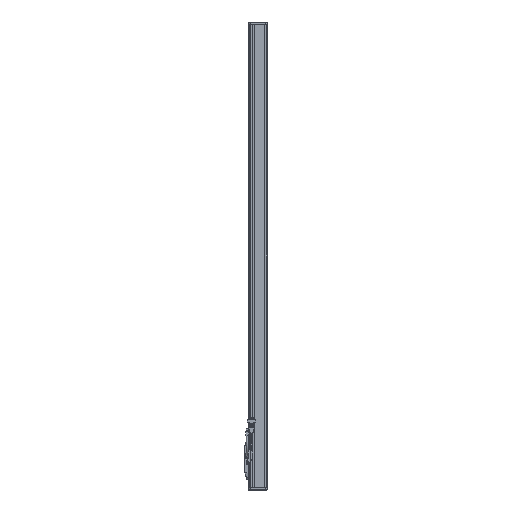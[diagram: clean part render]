
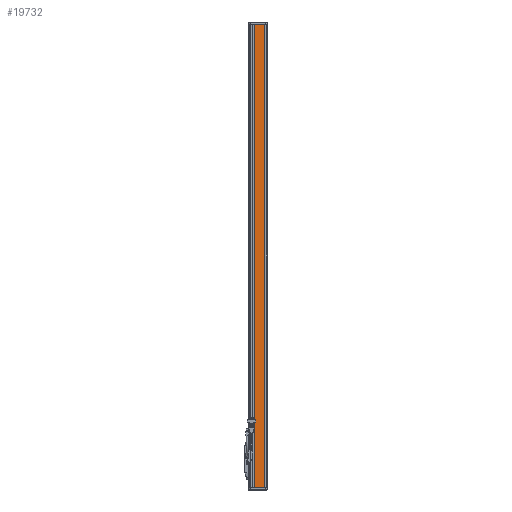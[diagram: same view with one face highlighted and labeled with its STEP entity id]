
A CAD part, left-side view. The second image highlights one B-rep face of the part: STEP entity #19732.
In plain terms, the highlighted planar face has unit normal (-1, 0, 0).
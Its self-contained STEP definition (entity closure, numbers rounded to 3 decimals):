
#144 = PLANE('',#145);
#145 = AXIS2_PLACEMENT_3D('',#146,#147,#148);
#146 = CARTESIAN_POINT('',(-36.5,59.6,1590.));
#147 = DIRECTION('',(0.,0.,1.));
#148 = DIRECTION('',(1.,0.,-0.));
#809 = PLANE('',#810);
#810 = AXIS2_PLACEMENT_3D('',#811,#812,#813);
#811 = CARTESIAN_POINT('',(-36.5,59.6,0.));
#812 = DIRECTION('',(0.,0.,1.));
#813 = DIRECTION('',(1.,0.,-0.));
#12727 = VERTEX_POINT('',#12728);
#12728 = CARTESIAN_POINT('',(-40.5,43.6,1590.));
#12742 = PLANE('',#12743);
#12743 = AXIS2_PLACEMENT_3D('',#12744,#12745,#12746);
#12744 = CARTESIAN_POINT('',(-40.,43.6,1590.));
#12745 = DIRECTION('',(0.,1.,0.));
#12746 = DIRECTION('',(0.,-0.,1.));
#12754 = EDGE_CURVE('',#12727,#12755,#12757,.T.);
#12755 = VERTEX_POINT('',#12756);
#12756 = CARTESIAN_POINT('',(-40.5,11.,1590.));
#12757 = SURFACE_CURVE('',#12758,(#12762,#12769),.PCURVE_S1.);
#12758 = LINE('',#12759,#12760);
#12759 = CARTESIAN_POINT('',(-40.5,19.,1590.));
#12760 = VECTOR('',#12761,1.);
#12761 = DIRECTION('',(0.,-1.,0.));
#12762 = PCURVE('',#144,#12763);
#12763 = DEFINITIONAL_REPRESENTATION('',(#12764),#12768);
#12764 = LINE('',#12765,#12766);
#12765 = CARTESIAN_POINT('',(-4.,-40.6));
#12766 = VECTOR('',#12767,1.);
#12767 = DIRECTION('',(0.,-1.));
#12768 = ( GEOMETRIC_REPRESENTATION_CONTEXT(2) 
PARAMETRIC_REPRESENTATION_CONTEXT() REPRESENTATION_CONTEXT('2D SPACE',''
  ) );
#12769 = PCURVE('',#12770,#12775);
#12770 = PLANE('',#12771);
#12771 = AXIS2_PLACEMENT_3D('',#12772,#12773,#12774);
#12772 = CARTESIAN_POINT('',(-40.5,19.,1590.));
#12773 = DIRECTION('',(1.,0.,-0.));
#12774 = DIRECTION('',(-0.,0.,-1.));
#12775 = DEFINITIONAL_REPRESENTATION('',(#12776),#12780);
#12776 = LINE('',#12777,#12778);
#12777 = CARTESIAN_POINT('',(0.,0.));
#12778 = VECTOR('',#12779,1.);
#12779 = DIRECTION('',(-0.,-1.));
#12780 = ( GEOMETRIC_REPRESENTATION_CONTEXT(2) 
PARAMETRIC_REPRESENTATION_CONTEXT() REPRESENTATION_CONTEXT('2D SPACE',''
  ) );
#12798 = PLANE('',#12799);
#12799 = AXIS2_PLACEMENT_3D('',#12800,#12801,#12802);
#12800 = CARTESIAN_POINT('',(-41.,10.5,1590.));
#12801 = DIRECTION('',(0.707,-0.707,0.));
#12802 = DIRECTION('',(0.707,0.707,0.));
#14144 = VERTEX_POINT('',#14145);
#14145 = CARTESIAN_POINT('',(-40.5,11.,0.));
#14166 = EDGE_CURVE('',#14167,#14144,#14169,.T.);
#14167 = VERTEX_POINT('',#14168);
#14168 = CARTESIAN_POINT('',(-40.5,43.6,0.));
#14169 = SURFACE_CURVE('',#14170,(#14174,#14181),.PCURVE_S1.);
#14170 = LINE('',#14171,#14172);
#14171 = CARTESIAN_POINT('',(-40.5,19.,0.));
#14172 = VECTOR('',#14173,1.);
#14173 = DIRECTION('',(0.,-1.,0.));
#14174 = PCURVE('',#809,#14175);
#14175 = DEFINITIONAL_REPRESENTATION('',(#14176),#14180);
#14176 = LINE('',#14177,#14178);
#14177 = CARTESIAN_POINT('',(-4.,-40.6));
#14178 = VECTOR('',#14179,1.);
#14179 = DIRECTION('',(0.,-1.));
#14180 = ( GEOMETRIC_REPRESENTATION_CONTEXT(2) 
PARAMETRIC_REPRESENTATION_CONTEXT() REPRESENTATION_CONTEXT('2D SPACE',''
  ) );
#14181 = PCURVE('',#12770,#14182);
#14182 = DEFINITIONAL_REPRESENTATION('',(#14183),#14187);
#14183 = LINE('',#14184,#14185);
#14184 = CARTESIAN_POINT('',(1590.,0.));
#14185 = VECTOR('',#14186,1.);
#14186 = DIRECTION('',(-0.,-1.));
#14187 = ( GEOMETRIC_REPRESENTATION_CONTEXT(2) 
PARAMETRIC_REPRESENTATION_CONTEXT() REPRESENTATION_CONTEXT('2D SPACE',''
  ) );
#17046 = EDGE_CURVE('',#12755,#14144,#17047,.T.);
#17047 = SURFACE_CURVE('',#17048,(#17052,#17059),.PCURVE_S1.);
#17048 = LINE('',#17049,#17050);
#17049 = CARTESIAN_POINT('',(-40.5,11.,1590.));
#17050 = VECTOR('',#17051,1.);
#17051 = DIRECTION('',(-0.,-0.,-1.));
#17052 = PCURVE('',#12798,#17053);
#17053 = DEFINITIONAL_REPRESENTATION('',(#17054),#17058);
#17054 = LINE('',#17055,#17056);
#17055 = CARTESIAN_POINT('',(0.707,0.));
#17056 = VECTOR('',#17057,1.);
#17057 = DIRECTION('',(0.,-1.));
#17058 = ( GEOMETRIC_REPRESENTATION_CONTEXT(2) 
PARAMETRIC_REPRESENTATION_CONTEXT() REPRESENTATION_CONTEXT('2D SPACE',''
  ) );
#17059 = PCURVE('',#12770,#17060);
#17060 = DEFINITIONAL_REPRESENTATION('',(#17061),#17065);
#17061 = LINE('',#17062,#17063);
#17062 = CARTESIAN_POINT('',(-0.,-8.));
#17063 = VECTOR('',#17064,1.);
#17064 = DIRECTION('',(1.,-0.));
#17065 = ( GEOMETRIC_REPRESENTATION_CONTEXT(2) 
PARAMETRIC_REPRESENTATION_CONTEXT() REPRESENTATION_CONTEXT('2D SPACE',''
  ) );
#19732 = ADVANCED_FACE('',(#19733),#12770,.F.);
#19733 = FACE_BOUND('',#19734,.T.);
#19734 = EDGE_LOOP('',(#19735,#19736,#19737,#19738));
#19735 = ORIENTED_EDGE('',*,*,#14166,.T.);
#19736 = ORIENTED_EDGE('',*,*,#17046,.F.);
#19737 = ORIENTED_EDGE('',*,*,#12754,.F.);
#19738 = ORIENTED_EDGE('',*,*,#19739,.F.);
#19739 = EDGE_CURVE('',#14167,#12727,#19740,.T.);
#19740 = SURFACE_CURVE('',#19741,(#19745,#19752),.PCURVE_S1.);
#19741 = LINE('',#19742,#19743);
#19742 = CARTESIAN_POINT('',(-40.5,43.6,1590.));
#19743 = VECTOR('',#19744,1.);
#19744 = DIRECTION('',(0.,0.,1.));
#19745 = PCURVE('',#12770,#19746);
#19746 = DEFINITIONAL_REPRESENTATION('',(#19747),#19751);
#19747 = LINE('',#19748,#19749);
#19748 = CARTESIAN_POINT('',(0.,24.6));
#19749 = VECTOR('',#19750,1.);
#19750 = DIRECTION('',(-1.,0.));
#19751 = ( GEOMETRIC_REPRESENTATION_CONTEXT(2) 
PARAMETRIC_REPRESENTATION_CONTEXT() REPRESENTATION_CONTEXT('2D SPACE',''
  ) );
#19752 = PCURVE('',#12742,#19753);
#19753 = DEFINITIONAL_REPRESENTATION('',(#19754),#19758);
#19754 = LINE('',#19755,#19756);
#19755 = CARTESIAN_POINT('',(0.,-0.5));
#19756 = VECTOR('',#19757,1.);
#19757 = DIRECTION('',(1.,0.));
#19758 = ( GEOMETRIC_REPRESENTATION_CONTEXT(2) 
PARAMETRIC_REPRESENTATION_CONTEXT() REPRESENTATION_CONTEXT('2D SPACE',''
  ) );
